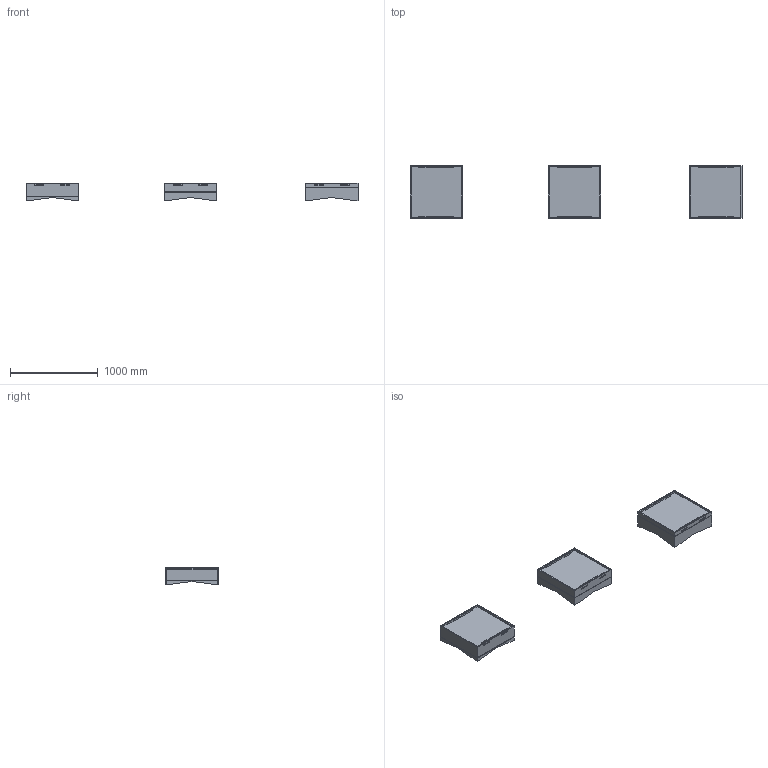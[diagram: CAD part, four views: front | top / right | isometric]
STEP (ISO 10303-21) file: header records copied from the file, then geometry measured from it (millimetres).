
FILE_DESCRIPTION(/* description */ (''),/* implementation_level */ '2;1');
FILE_NAME(/* name */ 'Coffa_Profile_2',/* time_stamp */ '2026-07-17T11:31:25-05:00',/* author */ (''),/* organization */ (''),/* preprocessor_version */ 'ST-DEVELOPER v19.2',/* originating_system */ 'Rhino 8.32',/* authorisation */ '');
FILE_SCHEMA (('CONFIG_CONTROL_DESIGN'));
Length unit declared in the file: inch
Products named in the file (1): Document
Bounding box: 3786.87 x 596.9 x 203.2 mm (x, y, z)
Volume: 27809570.7 mm3; surface area: 5130591.5 mm2
Topology: 21 solids, 21 shells, 294 faces, 768 edges, 516 vertices
Faces by surface type: plane 294
Entity records: 8345 total; most frequent: CARTESIAN_POINT 2853, ORIENTED_EDGE 1512, B_SPLINE_CURVE_WITH_KNOTS 768, EDGE_CURVE 756, VERTEX_POINT 504, EDGE_LOOP 318, DIRECTION 300, AXIS2_PLACEMENT_3D 297
